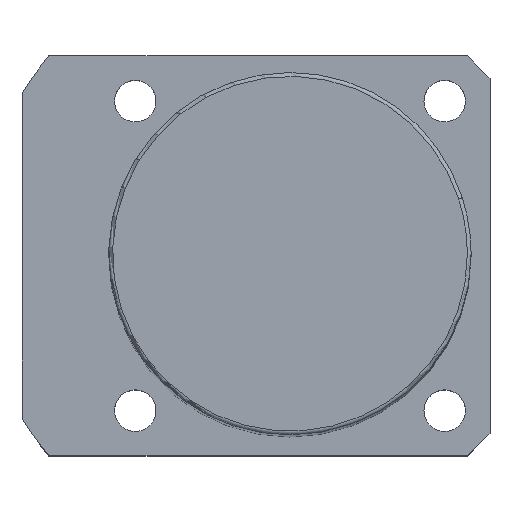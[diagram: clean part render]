
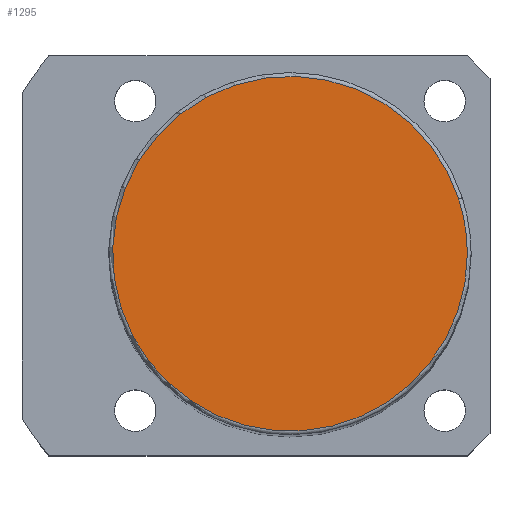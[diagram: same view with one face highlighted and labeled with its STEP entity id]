
A CAD part, top view. The second image highlights one B-rep face of the part: STEP entity #1295.
In plain terms, the highlighted planar face has unit normal (0, 0, 1).
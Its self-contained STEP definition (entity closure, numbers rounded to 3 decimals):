
#1261=CARTESIAN_POINT('',(23.5,0.0,174.0));
#1262=VERTEX_POINT('',#1261);
#1263=CARTESIAN_POINT('',(22.35,7.262,174.0));
#1264=VERTEX_POINT('',#1263);
#1265=CARTESIAN_POINT('',(0.0,0.0,174.0));
#1266=DIRECTION('',(0.0,0.0,1.0));
#1267=DIRECTION('',(1.0,0.0,0.0));
#1268=AXIS2_PLACEMENT_3D('',#1265,#1266,#1267);
#1269=CIRCLE('',#1268,23.5);
#1270=EDGE_CURVE('no 1810',#1262,#1264,#1269,.T.);
#1271=ORIENTED_EDGE('',*,*,#1270,.T.);
#1272=CARTESIAN_POINT('',(-22.35,-7.262,174.0));
#1273=VERTEX_POINT('',#1272);
#1274=CARTESIAN_POINT('',(0.0,0.0,174.0));
#1275=DIRECTION('',(0.0,0.0,1.0));
#1276=DIRECTION('',(1.0,0.0,0.0));
#1277=AXIS2_PLACEMENT_3D('',#1274,#1275,#1276);
#1278=CIRCLE('',#1277,23.5);
#1279=EDGE_CURVE('no 1816',#1264,#1273,#1278,.T.);
#1280=ORIENTED_EDGE('',*,*,#1279,.T.);
#1281=CARTESIAN_POINT('',(0.0,0.0,174.0));
#1282=DIRECTION('',(0.0,0.0,1.0));
#1283=DIRECTION('',(1.0,0.0,0.0));
#1284=AXIS2_PLACEMENT_3D('',#1281,#1282,#1283);
#1285=CIRCLE('',#1284,23.5);
#1286=EDGE_CURVE('no 1820',#1273,#1262,#1285,.T.);
#1287=ORIENTED_EDGE('',*,*,#1286,.T.);
#1288=EDGE_LOOP('',(#1271,#1280,#1287));
#1289=FACE_OUTER_BOUND('',#1288,.T.);
#1290=CARTESIAN_POINT('',(0.0,0.0,174.0));
#1291=DIRECTION('',(0.0,0.0,1.0));
#1292=DIRECTION('',(1.0,0.0,0.0));
#1293=AXIS2_PLACEMENT_3D('',#1290,#1291,#1292);
#1294=PLANE('',#1293);
#1295=ADVANCED_FACE('no 1801',(#1289),#1294,.T.);
